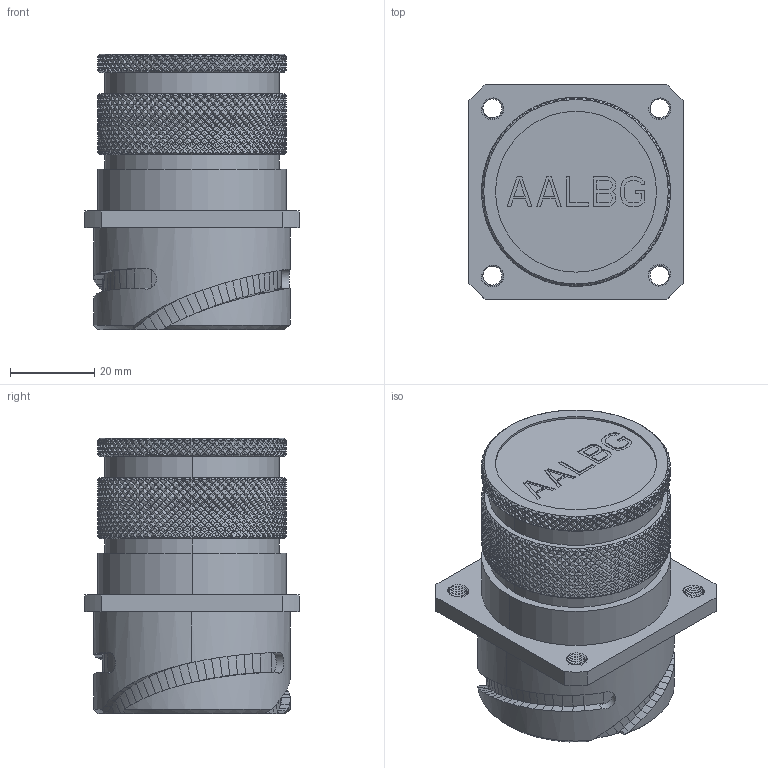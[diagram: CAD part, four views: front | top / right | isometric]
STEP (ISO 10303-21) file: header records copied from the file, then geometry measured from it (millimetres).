
FILE_DESCRIPTION((''),'2;1');
FILE_NAME('GCE3100E28M150P-B-T3_SW0001','2023-06-01T09:06:37',('paultorloting'),('NET AG system integration'),'CREO PARAMETRIC BY PTC INC, 2021404','CREO PARAMETRIC BY PTC INC, 2021404','');
FILE_SCHEMA(('AUTOMOTIVE_DESIGN { 1 0 10303 214 1 1 1 1 }'));
Products named in the file (1): GCE3100E28M150P-B-T3_SW0001
Bounding box: 50.8 x 50.8 x 65.3 mm (x, y, z)
Volume: 90219.3 mm3; surface area: 23323.4 mm2
Topology: 1 solids, 1 shells, 11369 faces, 25266 edges, 13921 vertices
Faces by surface type: bspline 6092, plane 3240, cylinder 1432, extrusion 578, cone 17, torus 10
Entity records: 495659 total; most frequent: CARTESIAN_POINT 230876, ORIENTED_EDGE 50532, EDGE_CURVE 25266, B_SPLINE_CURVE_WITH_KNOTS 22143, DIRECTION 14084, VERTEX_POINT 13921, PRESENTATION_STYLE_ASSIGNMENT 11803, STYLED_ITEM 11803
